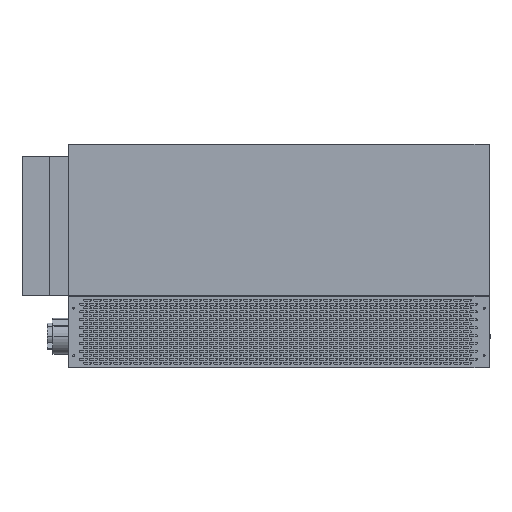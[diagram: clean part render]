
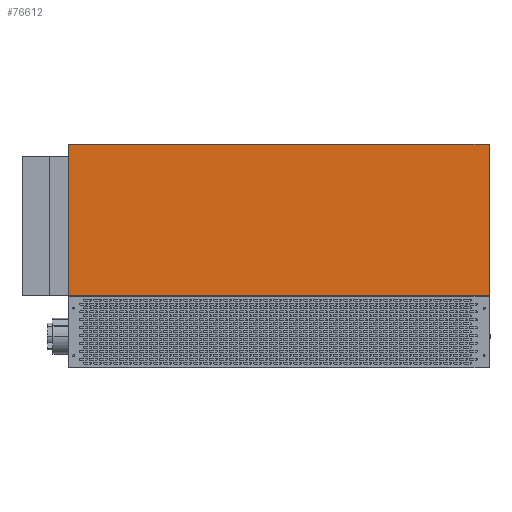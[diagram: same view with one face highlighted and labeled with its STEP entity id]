
A CAD part, top view. The second image highlights one B-rep face of the part: STEP entity #76612.
In plain terms, the highlighted planar face has unit normal (0, 0, 1).
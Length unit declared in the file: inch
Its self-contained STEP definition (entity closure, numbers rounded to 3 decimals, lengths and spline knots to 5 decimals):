
#3943 = EDGE_LOOP ( 'NONE', ( #72383, #153546, #132683, #171043 ) ) ;
#5978 = VECTOR ( 'NONE', #88817, 39.37008 ) ;
#8430 = CARTESIAN_POINT ( 'NONE',  ( -20.8125, 22.125, 2.5625 ) ) ;
#9242 = VERTEX_POINT ( 'NONE', #90949 ) ;
#23838 = EDGE_CURVE ( 'NONE', #77564, #9242, #27531, .T. ) ;
#27531 = LINE ( 'NONE', #65983, #124769 ) ;
#45722 = CARTESIAN_POINT ( 'NONE',  ( 20.8125, 22.125, 2.5625 ) ) ;
#46611 = DIRECTION ( 'NONE',  ( 0., -1., 0. ) ) ;
#49103 = DIRECTION ( 'NONE',  ( -1., 0., 0. ) ) ;
#65721 = VERTEX_POINT ( 'NONE', #137097 ) ;
#65983 = CARTESIAN_POINT ( 'NONE',  ( -20.8125, 22.125, 2.5625 ) ) ;
#66574 = AXIS2_PLACEMENT_3D ( 'NONE', #134658, #149808, #81951 ) ;
#69878 = CARTESIAN_POINT ( 'NONE',  ( -20.8125, 22.125, 2.5625 ) ) ;
#72145 = VECTOR ( 'NONE', #46611, 39.37008 ) ;
#72383 = ORIENTED_EDGE ( 'NONE', *, *, #23838, .T. ) ;
#76612 = ADVANCED_FACE ( 'NONE', ( #79340 ), #94455, .F. ) ;
#77564 = VERTEX_POINT ( 'NONE', #69878 ) ;
#79289 = VERTEX_POINT ( 'NONE', #168780 ) ;
#79340 = FACE_OUTER_BOUND ( 'NONE', #3943, .T. ) ;
#81951 = DIRECTION ( 'NONE',  ( -1., 0., 0. ) ) ;
#88817 = DIRECTION ( 'NONE',  ( 1., 0., 0. ) ) ;
#90949 = CARTESIAN_POINT ( 'NONE',  ( -20.8125, 7.164, 2.5625 ) ) ;
#93086 = EDGE_CURVE ( 'NONE', #77564, #65721, #128119, .T. ) ;
#94455 = PLANE ( 'NONE',  #66574 ) ;
#106154 = DIRECTION ( 'NONE',  ( 0., -1., 0. ) ) ;
#115215 = LINE ( 'NONE', #142008, #171158 ) ;
#118980 = EDGE_CURVE ( 'NONE', #79289, #9242, #115215, .T. ) ;
#124769 = VECTOR ( 'NONE', #106154, 39.37008 ) ;
#128119 = LINE ( 'NONE', #8430, #5978 ) ;
#132683 = ORIENTED_EDGE ( 'NONE', *, *, #169752, .F. ) ;
#134658 = CARTESIAN_POINT ( 'NONE',  ( -20.8125, 22.125, 2.5625 ) ) ;
#137097 = CARTESIAN_POINT ( 'NONE',  ( 20.8125, 22.125, 2.5625 ) ) ;
#142008 = CARTESIAN_POINT ( 'NONE',  ( -20.8125, 7.164, 2.5625 ) ) ;
#149808 = DIRECTION ( 'NONE',  ( 0., 0., -1. ) ) ;
#153546 = ORIENTED_EDGE ( 'NONE', *, *, #118980, .F. ) ;
#168071 = LINE ( 'NONE', #45722, #72145 ) ;
#168780 = CARTESIAN_POINT ( 'NONE',  ( 20.8125, 7.164, 2.5625 ) ) ;
#169752 = EDGE_CURVE ( 'NONE', #65721, #79289, #168071, .T. ) ;
#171043 = ORIENTED_EDGE ( 'NONE', *, *, #93086, .F. ) ;
#171158 = VECTOR ( 'NONE', #49103, 39.37008 ) ;
